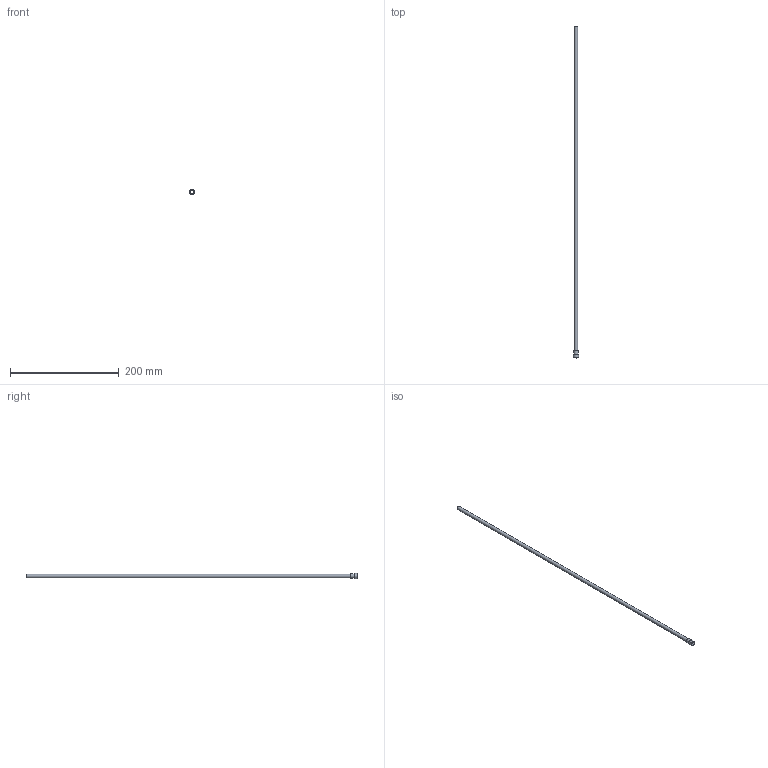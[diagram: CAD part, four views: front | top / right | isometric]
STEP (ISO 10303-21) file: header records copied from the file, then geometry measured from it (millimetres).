
FILE_DESCRIPTION(/* description */ (''),/* implementation_level */ '2;1');
FILE_NAME(/* name */ 'C:/Users/drich/Desktop/R250T-24 v1.step',/* time_stamp */ '2019-12-30T13:16:14-06:00',/* author */ (''),/* organization */ (''),/* preprocessor_version */ 'ST-DEVELOPER v18',/* originating_system */ 'Autodesk Translation Framework v8.12.0.6',/* authorisation */ '');
FILE_SCHEMA (('AUTOMOTIVE_DESIGN { 1 0 10303 214 3 1 1 }'));
Length unit declared in the file: inch
Products named in the file (1): R250T-24
Bounding box: 9.4 x 609.6 x 9.4 mm (x, y, z)
Volume: 3319.5 mm3; surface area: 23535.2 mm2
Topology: 1 solids, 1 shells, 19 faces, 47 edges, 33 vertices
Faces by surface type: plane 11, cylinder 4, torus 3, cone 1
Full cylindrical faces by diameter (mm): 5.842 x1, 6.35 x1, 7.818 x1, 9.398 x1
Entity records: 624 total; most frequent: DIRECTION 111, CARTESIAN_POINT 100, ORIENTED_EDGE 94, EDGE_CURVE 47, AXIS2_PLACEMENT_3D 44, VERTEX_POINT 33, EDGE_LOOP 24, CIRCLE 24
